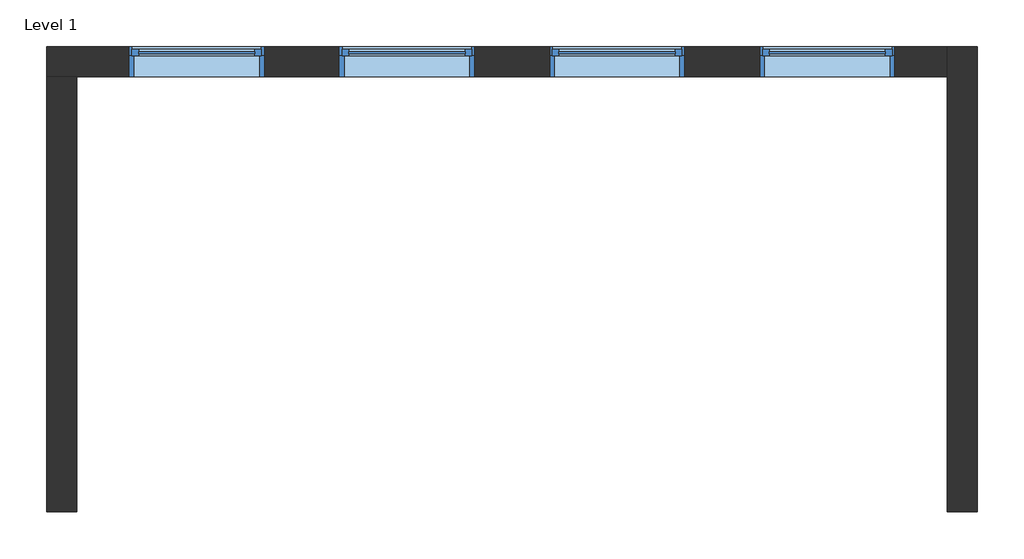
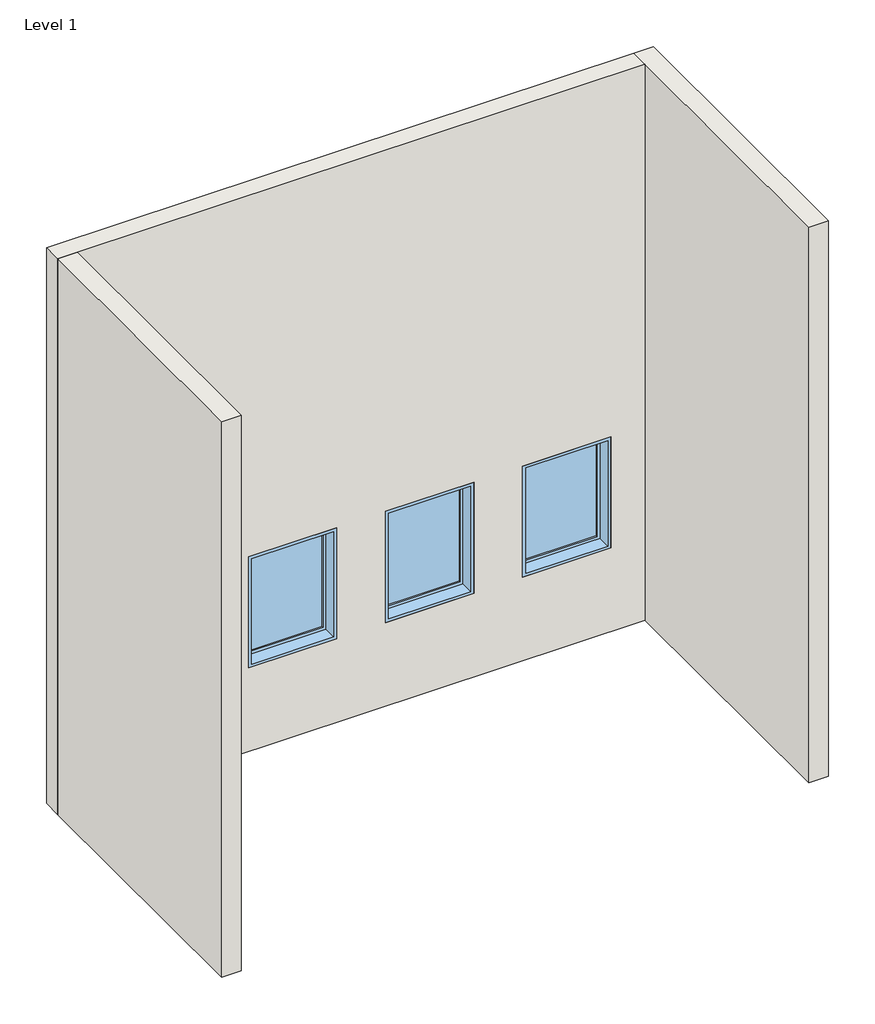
# One storey: 4 windows, 3 walls.
"""IFC4 building model written with IfcOpenShell, lengths in millimetres."""

from ifc_helpers import new_model, si_unit, origin, origin_with_axes, place, context, project, spatial, polyline, outline, extrude, faceted_brep, transform, mapped, element, save
from components import window_e2841890

model = new_model("IFC4")

# Units and contexts
model_context = context("Model", 3, world=origin())
ifc_project = project(units=[si_unit("LENGTHUNIT", "METRE", prefix="MILLI")], contexts=[model_context])

# Site, building, storey
site = spatial("IfcSite", under=ifc_project)
building = spatial("IfcBuilding", under=site)
storey = spatial("IfcBuildingStorey", under=building, Name="Level 1", Elevation=0.0)

# Walls
placement = place(None, origin())
element("IfcWall", 1, ObjectType="Generic - 8\"", at=placement, inside=storey, context=model_context, shape_type="Brep", body=[
    faceted_brep([(-852.706997, 219.0388617, 0.0), (-649.506997, 219.0388617, 0.0), (5243.293003, 219.0388617, 0.0), (5243.293003, 219.0388617, 6096.0), (-649.506997, 219.0388617, 6096.0), (-852.706997, 219.0388617, 6096.0), (620.493003, 219.0388617, 2133.6), (620.493003, 219.0388617, 914.4), (-293.906997, 219.0388617, 914.4), (-293.906997, 219.0388617, 2133.6), (4887.693003, 219.0388617, 2133.6), (4887.693003, 219.0388617, 914.4), (3973.293003, 219.0388617, 914.4), (3973.293003, 219.0388617, 2133.6), (3465.293003, 219.0388617, 2133.6), (3465.293003, 219.0388617, 914.4), (2550.893003, 219.0388617, 914.4), (2550.893003, 219.0388617, 2133.6), (2042.893003, 219.0388617, 2133.6), (2042.893003, 219.0388617, 914.4), (1128.493003, 219.0388617, 914.4), (1128.493003, 219.0388617, 2133.6), (-852.706997, 422.2388617, 0.0), (-852.706997, 422.2388617, 6096.0), (5243.293003, 422.2388617, 6096.0), (5243.293003, 422.2388617, 0.0), (620.493003, 422.2388617, 2133.6), (-293.906997, 422.2388617, 2133.6), (-293.906997, 422.2388617, 914.4), (620.493003, 422.2388617, 914.4), (4887.693003, 422.2388617, 2133.6), (3973.293003, 422.2388617, 2133.6), (3973.293003, 422.2388617, 914.4), (4887.693003, 422.2388617, 914.4), (3465.293003, 422.2388617, 2133.6), (2550.893003, 422.2388617, 2133.6), (2550.893003, 422.2388617, 914.4), (3465.293003, 422.2388617, 914.4), (2042.893003, 422.2388617, 2133.6), (1128.493003, 422.2388617, 2133.6), (1128.493003, 422.2388617, 914.4), (2042.893003, 422.2388617, 914.4)], [[[0, 1, 2, 3, 4, 5], [6, 7, 8, 9], [10, 11, 12, 13], [14, 15, 16, 17], [18, 19, 20, 21]], [[22, 23, 24, 25], [26, 27, 28, 29], [30, 31, 32, 33], [34, 35, 36, 37], [38, 39, 40, 41]], [[2, 1, 0, 22, 25]], [[5, 4, 3, 24, 23]], [[0, 5, 23, 22]], [[3, 2, 25, 24]], [[7, 6, 26, 29]], [[8, 7, 29, 28]], [[9, 8, 28, 27]], [[6, 9, 27, 26]], [[11, 10, 30, 33]], [[12, 11, 33, 32]], [[13, 12, 32, 31]], [[10, 13, 31, 30]], [[15, 14, 34, 37]], [[16, 15, 37, 36]], [[17, 16, 36, 35]], [[14, 17, 35, 34]], [[19, 18, 38, 41]], [[20, 19, 41, 40]], [[21, 20, 40, 39]], [[18, 21, 39, 38]]]),
])
element("IfcWall", 2, ObjectType="Generic - 8\"", at=placement, inside=storey, context=model_context, shape_type="SweptSolid", body=[
    extrude(outline(polyline([(-649.506997, 219.0388617), (-649.506997, -2727.3611383), (-852.706997, -2727.3611383), (-852.706997, 219.0388617), (-649.506997, 219.0388617)])), origin_with_axes(), (0.0, 0.0, 1.0), 6096.0),
])
element("IfcWall", 3, ObjectType="Generic - 8\"", at=placement, inside=storey, context=model_context, shape_type="Brep", body=[
    faceted_brep([(5243.293003, 422.2388617, 0.0), (5243.293003, 219.0388617, 0.0), (5243.293003, -2727.3611383, 0.0), (5243.293003, -2727.3611383, 6096.0), (5243.293003, 219.0388617, 6096.0), (5243.293003, 422.2388617, 6096.0), (5446.493003, 422.2388617, 0.0), (5446.493003, 422.2388617, 6096.0), (5446.493003, -2727.3611383, 6096.0), (5446.493003, -2727.3611383, 0.0)], [[[0, 1, 2, 3, 4, 5]], [[6, 7, 8, 9]], [[2, 1, 0, 6, 9]], [[3, 2, 9, 8]], [[5, 4, 3, 8, 7]], [[0, 5, 7, 6]]]),
])

# Windows
window_shape = window_e2841890(model_context)
element("IfcWindow", 4, ObjectType="Fixed : 36\" x 48\"", at=placement, inside=storey, context=model_context, shape_type="MappedRepresentation", body=[
    mapped(window_shape, transform((201.393003, 320.6388617, 0.0), x_axis=(1.0, 0.0, 0.0), y_axis=(0.0, 1.0, 0.0), z_axis=(0.0, 0.0, 1.0))),
])
element("IfcWindow", 5, ObjectType="Fixed : 36\" x 48\"", at=placement, inside=storey, context=model_context, shape_type="MappedRepresentation", body=[
    mapped(window_shape, transform((4468.593003, 320.6388617, 0.0), x_axis=(1.0, 0.0, 0.0), y_axis=(0.0, 1.0, 0.0), z_axis=(0.0, 0.0, 1.0))),
])
element("IfcWindow", 6, ObjectType="Fixed : 36\" x 48\"", at=placement, inside=storey, context=model_context, shape_type="MappedRepresentation", body=[
    mapped(window_shape, transform((1623.793003, 320.6388617, 0.0), x_axis=(1.0, 0.0, 0.0), y_axis=(0.0, 1.0, 0.0), z_axis=(0.0, 0.0, 1.0))),
])
element("IfcWindow", 7, ObjectType="Fixed : 36\" x 48\"", at=placement, inside=storey, context=model_context, shape_type="MappedRepresentation", body=[
    mapped(window_shape, transform((3046.193003, 320.6388617, 0.0), x_axis=(1.0, 0.0, 0.0), y_axis=(0.0, 1.0, 0.0), z_axis=(0.0, 0.0, 1.0))),
])

save(model, "model.ifc")
